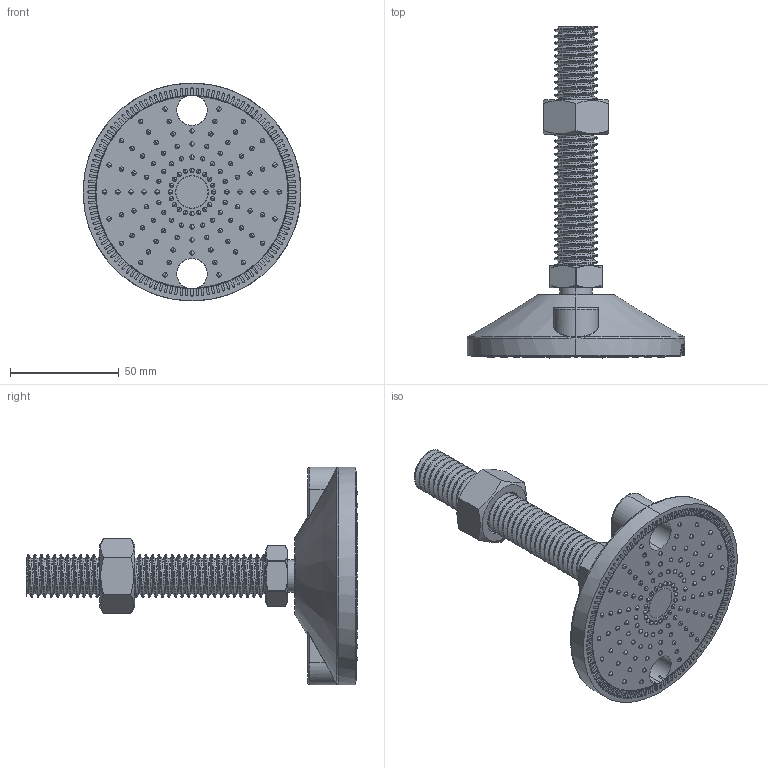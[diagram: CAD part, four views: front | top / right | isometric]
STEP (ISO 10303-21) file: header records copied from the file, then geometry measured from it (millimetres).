
FILE_DESCRIPTION (( 'STEP AP203' ), '1' );
FILE_NAME ('7082.STEP', '2025-12-16T06:49:18', ( '' ), ( '' ), 'SwSTEP 2.0', 'SolidWorks 2022', '' );
FILE_SCHEMA (( 'CONFIG_CONTROL_DESIGN' ));
Length unit declared in the file: millimetre
Products named in the file (4): Гайка DIN934_M20; 7082; 7082-2; 7082-1
Assembly tree (3 placements, depth 2):
  7082
    7082-1
    7082-2
    Гайка DIN934_M20
Bounding box: 100.01 x 152.25 x 100 mm (x, y, z)
Volume: 176406.6 mm3; surface area: 43310.3 mm2
Topology: 4 solids, 4 shells, 1146 faces, 3529 edges, 2274 vertices
Faces by surface type: plane 392, cylinder 322, sphere 246, bspline 144, cone 24, torus 18
Entity records: 56714 total; most frequent: CARTESIAN_POINT 28313, ORIENTED_EDGE 6096, DIRECTION 5695, EDGE_CURVE 3048, AXIS2_PLACEMENT_3D 2249, VERTEX_POINT 2039, EDGE_LOOP 1283, CIRCLE 1241
